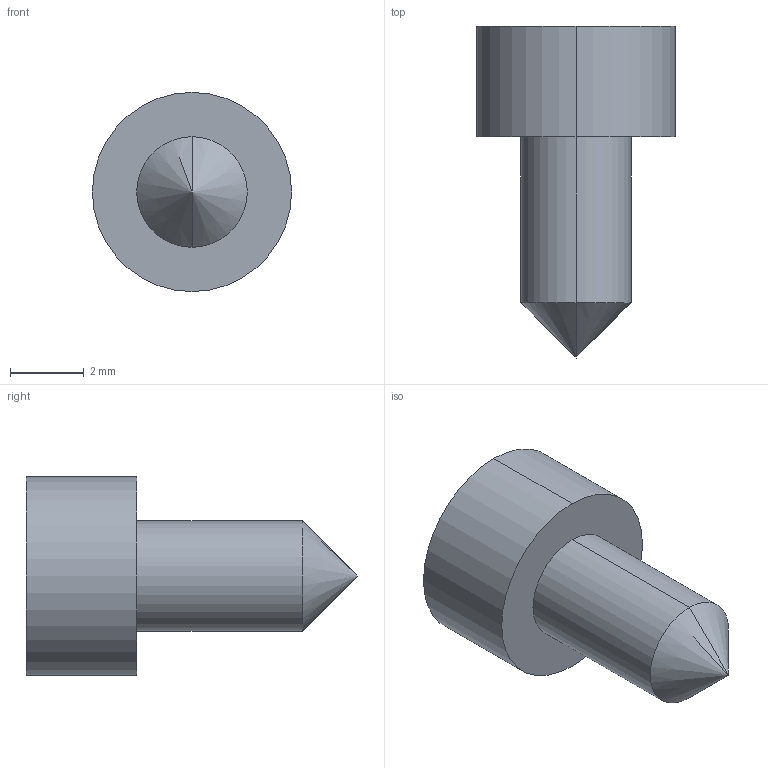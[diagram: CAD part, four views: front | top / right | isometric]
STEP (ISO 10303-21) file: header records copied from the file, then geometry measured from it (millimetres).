
FILE_DESCRIPTION (( 'STEP AP214' ), '1' );
FILE_NAME ('M3_imbus_6mm.STEP', '2026-02-22T20:20:05', ( '' ), ( '' ), 'SwSTEP 2.0', 'SolidWorks 2024', '' );
FILE_SCHEMA (( 'AUTOMOTIVE_DESIGN' ));
Length unit declared in the file: millimetre
Products named in the file (1): M3_imbus_6mm
Bounding box: 5.4 x 9 x 5.4 mm (x, y, z)
Volume: 84.6 mm3; surface area: 168 mm2
Topology: 1 solids, 1 shells, 15 faces, 34 edges, 21 vertices
Faces by surface type: plane 9, cylinder 4, cone 2
Entity records: 429 total; most frequent: DIRECTION 72, CARTESIAN_POINT 69, ORIENTED_EDGE 64, EDGE_CURVE 32, VECTOR 24, LINE 24, AXIS2_PLACEMENT_3D 24, VERTEX_POINT 21
